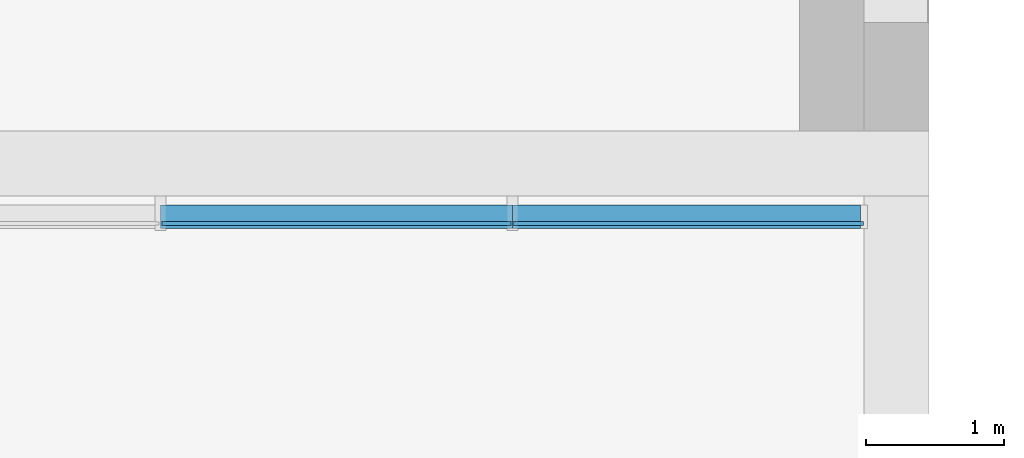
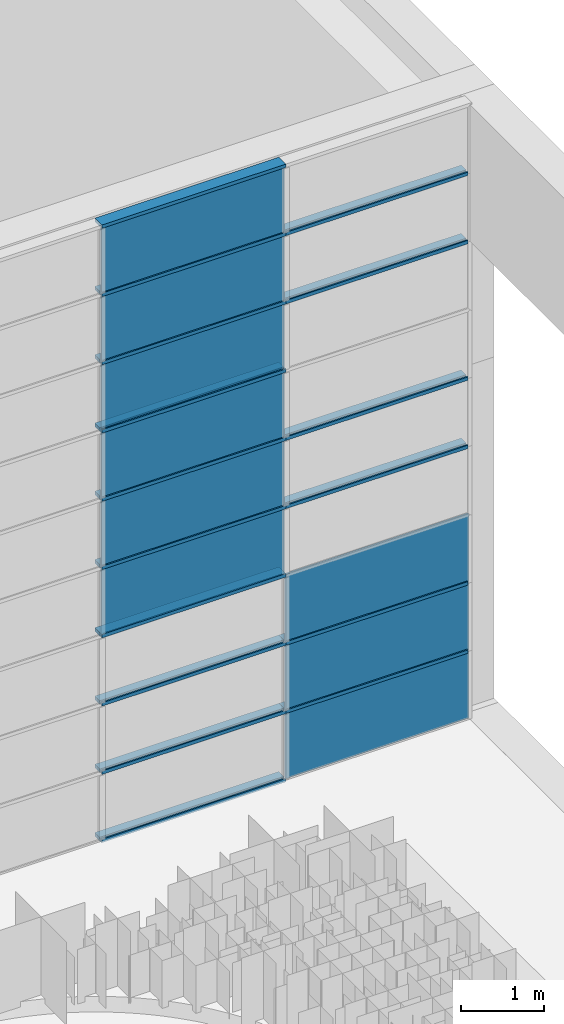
# One storey, part 58 of 105: 27 building element parts, 3 elements without a shape of their own.
"""IFC4 building model written with IfcOpenShell, lengths in millimetres."""

import ifcopenshell
import ifcopenshell.guid

model = None  # the IFC model being written
_history = None  # IfcOwnerHistory: only IFC2X3 demands one
_inside = {}  # id of a spatial element -> (the spatial element, [elements in it])
_under = {}  # id of a project, library or spatial element -> (it, [spatial elements below it])
_declared = {}  # id of a project -> (the project, [libraries it declares])
_typed = {}  # id of a type object -> (the type object, [elements of that type])
_made_of = {}  # id of a material, layer set ... -> (it, [elements and type objects made of it])


def new_model(schema):
    """Start an empty IFC model of exactly this schema.

    Asked for "IFC4X3", IfcOpenShell would pick the latest addendum, in which some entities
    have other attributes; the version numbers below select the first issue.
    IFC2X3 requires an IfcOwnerHistory on every rooted entity: one is made here for all.
    """
    global model, _history
    if schema == "IFC4X3":
        model = ifcopenshell.file(schema_version=(4, 3, 0, 0))
    else:
        model = ifcopenshell.file(schema=schema)
    _inside.clear()
    _under.clear()
    _declared.clear()
    _typed.clear()
    _made_of.clear()
    _history = None
    if model.schema == "IFC2X3":
        org = make("IfcOrganization", Name="unknown")
        user = make(
            "IfcPersonAndOrganization",
            ThePerson=make("IfcPerson", FamilyName="unknown"),
            TheOrganization=org,
        )
        app = make(
            "IfcApplication",
            ApplicationDeveloper=org,
            Version="unknown",
            ApplicationFullName="unknown",
            ApplicationIdentifier="unknown",
        )
        _history = make(
            "IfcOwnerHistory",
            OwningUser=user,
            OwningApplication=app,
            ChangeAction="ADDED",
            CreationDate=0,
        )
    return model


def make(cls, **values):
    """One entity of the class cls with the attributes given. An attribute that is None is left unset."""
    return model.create_entity(
        cls, **{name: value for name, value in values.items() if value is not None}
    )


def entity(cls, *values):
    """Any entity or typed value of the class cls, its attributes in the order of the schema. None: left unset."""
    e = model.create_entity(cls)
    for i, value in enumerate(values):
        if value is not None:
            e[i] = value
    return e


def rooted(cls, **values):
    """An entity with a GlobalId (a new one), such as an element, a storey or a relation."""
    return make(cls, GlobalId=ifcopenshell.guid.new(), OwnerHistory=_history, **values)


def si_unit(unit_type, name, prefix=None):
    """IfcSIUnit, for example si_unit("LENGTHUNIT", "METRE", prefix="MILLI")."""
    return make("IfcSIUnit", UnitType=unit_type, Prefix=prefix, Name=name)


def converted_unit(unit_type, name, factor, base, dimensions=None, offset=None):
    """IfcConversionBasedUnit, such as the inch: factor (a typed value) times the base unit."""
    return make(
        "IfcConversionBasedUnit"
        if offset is None
        else "IfcConversionBasedUnitWithOffset",
        ConversionOffset=offset,
        Dimensions=None
        if dimensions is None
        else entity("IfcDimensionalExponents", *dimensions),
        UnitType=unit_type,
        Name=name,
        ConversionFactor=make(
            "IfcMeasureWithUnit", ValueComponent=factor, UnitComponent=base
        ),
    )


def derived_unit(unit_type, elements):
    """IfcDerivedUnit: a product of units, each with its exponent."""
    return make(
        "IfcDerivedUnit",
        Elements=[
            make("IfcDerivedUnitElement", Unit=unit, Exponent=power)
            for unit, power in elements
        ],
        UnitType=unit_type,
    )


def assignment(units):
    """IfcUnitAssignment: the units of a project."""
    return None if units is None else make("IfcUnitAssignment", Units=units)


def point(xyz):
    """IfcCartesianPoint."""
    return None if xyz is None else make("IfcCartesianPoint", Coordinates=xyz)


def direction(xyz):
    """IfcDirection."""
    return None if xyz is None else make("IfcDirection", DirectionRatios=xyz)


def frame(location, z_axis=None, x_axis=None):
    """IfcAxis2Placement3D, a coordinate frame: its origin and axes. An axis left out is left unset."""
    return make(
        "IfcAxis2Placement3D",
        Location=point(location),
        Axis=direction(z_axis),
        RefDirection=direction(x_axis),
    )


def origin_with_axes():
    """The frame at (0, 0, 0) with the z axis (0, 0, 1) and the x axis (1, 0, 0) written out."""
    return frame((0.0, 0.0, 0.0), z_axis=(0.0, 0.0, 1.0), x_axis=(1.0, 0.0, 0.0))


def place(relative_to, where):
    """IfcLocalPlacement: puts the frame where relative to a parent placement (None: the world)."""
    return make(
        "IfcLocalPlacement", PlacementRelTo=relative_to, RelativePlacement=where
    )


def context(
    kind, dimensions, precision=None, world=None, true_north=None, identifier=None
):
    """IfcGeometricRepresentationContext, for example the 3D "Model" context."""
    return make(
        "IfcGeometricRepresentationContext",
        ContextIdentifier=identifier,
        ContextType=kind,
        CoordinateSpaceDimension=dimensions,
        Precision=precision,
        WorldCoordinateSystem=world,
        TrueNorth=true_north,
    )


def subcontext(parent, identifier, kind, view, scale=None):
    """IfcGeometricRepresentationSubContext, for example "Body" below "Model"."""
    return make(
        "IfcGeometricRepresentationSubContext",
        ContextIdentifier=identifier,
        ContextType=kind,
        ParentContext=parent,
        TargetScale=scale,
        TargetView=view,
    )


def project(units=None, contexts=None):
    """IfcProject with its units and contexts."""
    return rooted(
        "IfcProject",
        Name="project",
        RepresentationContexts=contexts,
        UnitsInContext=assignment(units),
    )


def spatial(cls, under=None, at=None, **own):
    """A site, building, storey or space (cls), placed at a placement, below another one or the project."""
    s = rooted(cls, ObjectPlacement=at, **own)
    if under is not None:
        _under.setdefault(under.id(), (under, []))[1].append(s)
    return s


def point_list(points):
    """IfcCartesianPointList2D or 3D."""
    cls = (
        "IfcCartesianPointList2D" if len(points[0]) == 2 else "IfcCartesianPointList3D"
    )
    return make(cls, CoordList=points)


def triangles(points, corners, closed=None, point_numbers=None):
    """IfcTriangulatedFaceSet: each triangle names its three corners, points numbered from 1."""
    return make(
        "IfcTriangulatedFaceSet",
        Coordinates=point_list(points),
        Closed=closed,
        CoordIndex=corners,
        PnIndex=point_numbers,
    )


def shape(context_of_items, identifier, shape_type, items):
    """IfcShapeRepresentation: the items that make up one representation, for example the "Body"."""
    return make(
        "IfcShapeRepresentation",
        ContextOfItems=context_of_items,
        RepresentationIdentifier=identifier,
        RepresentationType=shape_type,
        Items=items,
    )


def material(Name=None, Category=None):
    """IfcMaterial."""
    return make("IfcMaterial", Name=Name, Category=Category)


def made_of(thing, what):
    """Note that an element or type object is made of a material, layer set ...; save() writes the relation."""
    if what is not None:
        _made_of.setdefault(what.id(), (what, []))[1].append(thing)
    return thing


def element(
    cls,
    number,
    at=None,
    inside=None,
    cuts=None,
    type_object=None,
    material=None,
    context=None,
    identifier="Body",
    shape_type=None,
    held_by="IfcProductDefinitionShape",
    body=None,
    shapes=None,
    **own,
):
    """One element of the class cls, such as IfcWall. Its Tag is "e" and its number.

    at: its placement. inside: the storey or other place that contains it. cuts: it is an
    opening in that element (IfcRelVoidsElement). A single representation is given by context,
    identifier, shape_type and body (its items); several are given by shapes. held_by: the class
    of the entity that holds the representations. save() writes the other relations.
    """
    e = rooted(cls, Tag="e%d" % number, ObjectPlacement=at, **own)
    if body is not None:
        shapes = [shape(context, identifier, shape_type, body)]
    if shapes is not None:
        e.Representation = make(held_by, Representations=shapes)
    if inside is not None:
        _inside.setdefault(inside.id(), (inside, []))[1].append(e)
    if cuts is not None:
        rooted(
            "IfcRelVoidsElement", RelatingBuildingElement=cuts, RelatedOpeningElement=e
        )
    if type_object is not None:
        _typed.setdefault(type_object.id(), (type_object, []))[1].append(e)
    return made_of(e, material)


def aggregate(whole, parts):
    """IfcRelAggregates: a whole, such as a stair, and the parts it consists of."""
    return rooted("IfcRelAggregates", RelatingObject=whole, RelatedObjects=parts)


def save(model, path):
    """Write the relations noted so far, then the file.

    IfcRelAggregates (storeys below a building ...), IfcRelContainedInSpatialStructure (elements
    in a storey), IfcRelDefinesByType, IfcRelAssociatesMaterial and IfcRelDeclares: one each for
    every whole, place, type object, material and project.
    """
    for whole, parts in _under.values():
        aggregate(whole, parts)
    for where, things in _inside.values():
        rooted(
            "IfcRelContainedInSpatialStructure",
            RelatedElements=things,
            RelatingStructure=where,
        )
    for kind, things in _typed.values():
        rooted("IfcRelDefinesByType", RelatedObjects=things, RelatingType=kind)
    for what, things in _made_of.values():
        rooted("IfcRelAssociatesMaterial", RelatedObjects=things, RelatingMaterial=what)
    for by, libraries in _declared.values():
        rooted("IfcRelDeclares", RelatingContext=by, RelatedDefinitions=libraries)
    model.write(path)


model = new_model("IFC4")

# Units and contexts
model_context = context("Model", 3, precision=1e-05, world=origin_with_axes(), true_north=direction((0.0, 1.0)))
body_context = subcontext(model_context, "Body", "Model", "MODEL_VIEW")
ifc_project = project(units=[si_unit("LENGTHUNIT", "METRE", prefix="MILLI"), si_unit("AREAUNIT", "SQUARE_METRE"), si_unit("VOLUMEUNIT", "CUBIC_METRE"), converted_unit("PLANEANGLEUNIT", "DEGREE", entity("IfcLengthMeasure", 0.017453), si_unit("PLANEANGLEUNIT", "RADIAN"), dimensions=[0, 0, 0, 0, 0, 0, 0]), si_unit("SOLIDANGLEUNIT", "STERADIAN"), si_unit("MASSUNIT", "GRAM"), si_unit("TIMEUNIT", "SECOND"), si_unit("THERMODYNAMICTEMPERATUREUNIT", "DEGREE_CELSIUS"), si_unit("LUMINOUSINTENSITYUNIT", "LUMEN"), si_unit("POWERUNIT", "WATT"), derived_unit("THERMALTRANSMITTANCEUNIT", [(si_unit("POWERUNIT", "WATT"), 1), (si_unit("THERMODYNAMICTEMPERATUREUNIT", "KELVIN"), -1), (si_unit("AREAUNIT", "SQUARE_METRE"), -1)])], contexts=[model_context])

# Site, building, storey
site_placement = place(None, origin_with_axes())
site = spatial("IfcSite", under=ifc_project, at=site_placement, Name="Default Site", CompositionType="ELEMENT")
building_placement = place(site_placement, origin_with_axes())
building = spatial("IfcBuilding", under=site, at=building_placement, Name="Default Building", CompositionType="ELEMENT")
storey_placement = place(building_placement, origin_with_axes())
storey = spatial("IfcBuildingStorey", under=building, at=storey_placement, Name="OG - Story", CompositionType="ELEMENT", Elevation=0.0)

# Curtain wall, building element parts
curtain_wall_1_placement = place(storey_placement, origin_with_axes())
curtain_wall_1 = element("IfcCurtainWall", 1, at=curtain_wall_1_placement, inside=storey, Name="Fassade-005", PredefinedType="NOTDEFINED")
ifc_material_1 = material(Name="Normalglas")
building_element_part_1_placement = place(curtain_wall_1_placement, frame((52496.845873, -27789.262838, 3000.0), z_axis=(0.0, 0.0, 1.0), x_axis=(1.0, 0.0, 0.0)))
building_element_part_1 = element("IfcBuildingElementPart", 2, at=building_element_part_1_placement, material=ifc_material_1, Name="Normalglas", PredefinedType="NOTDEFINED", context=body_context, shape_type="Tessellation", body=[
    triangles([(26779.545, 15.0, 995.0), (24243.636, 15.0, 995.0), (24243.636, -14.999, 995.0), (26779.545, -14.999, 995.0), (26779.545, 15.0, 5.0), (24243.636, 15.0, 5.0), (24243.636, -14.999, 5.0), (26779.545, -14.999, 5.0)], [[1, 2, 3], [1, 3, 4], [1, 5, 6], [1, 6, 2], [2, 6, 7], [2, 7, 3], [4, 3, 7], [4, 7, 8], [5, 1, 4], [5, 4, 8], [6, 5, 8], [6, 8, 7]], closed=False),
])
building_element_part_2_placement = place(curtain_wall_1_placement, frame((52496.845873, -27789.262838, 3000.0), z_axis=(0.0, 0.0, 1.0), x_axis=(1.0, 0.0, 0.0)))
building_element_part_2 = element("IfcBuildingElementPart", 3, at=building_element_part_2_placement, material=ifc_material_1, Name="Normalglas", PredefinedType="NOTDEFINED", context=body_context, shape_type="Tessellation", body=[
    triangles([(26779.545, 15.0, 1995.0), (24243.636, 15.0, 1995.0), (24243.636, -14.999, 1995.0), (26779.545, -14.999, 1995.0), (26779.545, 15.0, 1005.0), (24243.636, 15.0, 1005.0), (24243.636, -14.999, 1005.0), (26779.545, -14.999, 1005.0)], [[1, 2, 3], [1, 3, 4], [1, 5, 6], [1, 6, 2], [2, 6, 7], [2, 7, 3], [4, 3, 7], [4, 7, 8], [5, 1, 4], [5, 4, 8], [6, 5, 8], [6, 8, 7]], closed=False),
])
building_element_part_3_placement = place(curtain_wall_1_placement, frame((52496.845873, -27789.262838, 3000.0), z_axis=(0.0, 0.0, 1.0), x_axis=(1.0, 0.0, 0.0)))
building_element_part_3 = element("IfcBuildingElementPart", 4, at=building_element_part_3_placement, material=ifc_material_1, Name="Normalglas", PredefinedType="NOTDEFINED", context=body_context, shape_type="Tessellation", body=[
    triangles([(26779.545, 15.0, 2995.0), (24243.636, 15.0, 2995.0), (24243.636, -14.999, 2995.0), (26779.545, -14.999, 2995.0), (26779.545, 15.0, 2005.0), (24243.636, 15.0, 2005.0), (24243.636, -14.999, 2005.0), (26779.545, -14.999, 2005.0)], [[1, 2, 3], [1, 3, 4], [1, 5, 6], [1, 6, 2], [2, 6, 7], [2, 7, 3], [4, 3, 7], [4, 7, 8], [5, 1, 4], [5, 4, 8], [6, 5, 8], [6, 8, 7]], closed=False),
])
ifc_material_2 = material(Name="Blech")
building_element_part_4_placement = place(curtain_wall_1_placement, frame((52496.845873, -27789.262838, 3000.0), z_axis=(0.0, 0.0, 1.0), x_axis=(1.0, 0.0, 0.0)))
building_element_part_4 = element("IfcBuildingElementPart", 5, at=building_element_part_4_placement, material=ifc_material_2, Name="Blech", PredefinedType="NOTDEFINED", context=body_context, shape_type="Tessellation", body=[
    triangles([(24233.636, 15.0, 25.0), (24233.636, 133.0, 25.0), (24233.636, 15.0, 5.0), (24233.636, 133.0, -24.999), (24233.636, -14.999, 5.0), (24233.636, -34.999, -24.999), (24233.636, -14.999, 25.0), (24233.636, -34.999, 25.0), (21682.727, 15.0, 5.0), (21682.727, -14.999, 5.0), (21682.727, -14.999, 25.0), (21682.727, -34.999, 25.0), (21682.727, -34.999, -24.999), (21682.727, 133.0, -24.999), (21682.727, 133.0, 25.0), (21682.727, 15.0, 25.0)], [[1, 2, 3], [3, 2, 4], [3, 4, 5], [5, 4, 6], [5, 6, 7], [7, 6, 8], [5, 3, 9], [5, 9, 10], [11, 7, 5], [11, 5, 10], [7, 11, 12], [7, 12, 8], [13, 6, 8], [13, 8, 12], [14, 4, 6], [14, 6, 13], [15, 2, 4], [15, 4, 14], [16, 1, 2], [16, 2, 15], [3, 1, 16], [3, 16, 9], [16, 15, 9], [9, 15, 14], [9, 14, 10], [10, 14, 13], [10, 13, 11], [11, 13, 12]], closed=False),
])
building_element_part_5_placement = place(curtain_wall_1_placement, frame((52496.845873, -27789.262838, 3000.0), z_axis=(0.0, 0.0, 1.0), x_axis=(1.0, 0.0, 0.0)))
building_element_part_5 = element("IfcBuildingElementPart", 6, at=building_element_part_5_placement, material=ifc_material_2, Name="Blech", PredefinedType="NOTDEFINED", context=body_context, shape_type="Tessellation", body=[
    triangles([(26759.545, 133.0, 2025.0), (26759.545, 15.0, 2025.0), (26759.545, 133.0, 1975.0), (26759.545, 15.0, 2005.0), (26759.545, 15.0, 1995.0), (26759.545, -14.999, 2005.0), (26759.545, -14.999, 1995.0), (26759.545, -14.999, 1975.0), (26759.545, -14.999, 2025.0), (26759.545, -34.999, 2025.0), (26759.545, -34.999, 1975.0), (26759.545, 15.0, 1975.0), (24233.636, 15.0, 1995.0), (24233.636, 15.0, 1975.0), (24233.636, 133.0, 1975.0), (24233.636, 133.0, 2025.0), (24233.636, 15.0, 2025.0), (24233.636, 15.0, 2005.0), (24233.636, -14.999, 2005.0), (24233.636, -14.999, 2025.0), (24233.636, -34.999, 2025.0), (24233.636, -34.999, 1975.0), (24233.636, -14.999, 1975.0), (24233.636, -14.999, 1995.0)], [[1, 2, 3], [3, 2, 4], [3, 4, 5], [5, 4, 6], [5, 6, 7], [8, 9, 10], [8, 10, 11], [3, 5, 12], [12, 5, 13], [12, 13, 14], [12, 14, 15], [12, 15, 3], [1, 3, 15], [1, 15, 16], [2, 1, 16], [2, 16, 17], [2, 17, 18], [2, 18, 4], [4, 18, 19], [4, 19, 6], [9, 6, 19], [9, 19, 20], [20, 21, 10], [20, 10, 9], [11, 10, 21], [11, 21, 22], [23, 8, 11], [23, 11, 22], [7, 8, 23], [7, 23, 24], [5, 7, 24], [5, 24, 13], [15, 14, 16], [16, 14, 13], [16, 13, 18], [18, 13, 24], [18, 24, 19], [20, 23, 22], [20, 22, 21], [16, 18, 17]], closed=False),
])
building_element_part_6_placement = place(curtain_wall_1_placement, frame((52496.845873, -27789.262838, 3000.0), z_axis=(0.0, 0.0, 1.0), x_axis=(1.0, 0.0, 0.0)))
building_element_part_6 = element("IfcBuildingElementPart", 7, at=building_element_part_6_placement, material=ifc_material_2, Name="Blech", PredefinedType="NOTDEFINED", context=body_context, shape_type="Tessellation", body=[
    triangles([(24233.636, 133.0, 1025.0), (24233.636, 15.0, 1025.0), (24233.636, 133.0, 975.0), (24233.636, 15.0, 1005.0), (24233.636, 15.0, 995.0), (24233.636, -14.999, 1005.0), (24233.636, -14.999, 995.0), (24233.636, -14.999, 975.0), (24233.636, -14.999, 1025.0), (24233.636, -34.999, 1025.0), (24233.636, -34.999, 975.0), (24233.636, 15.0, 975.0), (21682.727, 15.0, 995.0), (21682.727, 15.0, 975.0), (21682.727, 133.0, 975.0), (21682.727, 133.0, 1025.0), (21682.727, 15.0, 1025.0), (21682.727, 15.0, 1005.0), (21682.727, -14.999, 1005.0), (21682.727, -14.999, 1025.0), (21682.727, -34.999, 1025.0), (21682.727, -34.999, 975.0), (21682.727, -14.999, 975.0), (21682.727, -14.999, 995.0)], [[1, 2, 3], [3, 2, 4], [3, 4, 5], [5, 4, 6], [5, 6, 7], [8, 9, 10], [8, 10, 11], [3, 5, 12], [12, 5, 13], [12, 13, 14], [12, 14, 15], [12, 15, 3], [1, 3, 15], [1, 15, 16], [2, 1, 16], [2, 16, 17], [2, 17, 18], [2, 18, 4], [4, 18, 19], [4, 19, 6], [9, 6, 19], [9, 19, 20], [20, 21, 10], [20, 10, 9], [11, 10, 21], [11, 21, 22], [23, 8, 11], [23, 11, 22], [7, 8, 23], [7, 23, 24], [5, 7, 24], [5, 24, 13], [15, 14, 16], [16, 14, 13], [16, 13, 18], [18, 13, 24], [18, 24, 19], [20, 23, 22], [20, 22, 21], [16, 18, 17]], closed=False),
])
building_element_part_7_placement = place(curtain_wall_1_placement, frame((52496.845873, -27789.262838, 3000.0), z_axis=(0.0, 0.0, 1.0), x_axis=(1.0, 0.0, 0.0)))
building_element_part_7 = element("IfcBuildingElementPart", 8, at=building_element_part_7_placement, material=ifc_material_2, Name="Blech", PredefinedType="NOTDEFINED", context=body_context, shape_type="Tessellation", body=[
    triangles([(26759.545, 133.0, 1025.0), (26759.545, 15.0, 1025.0), (26759.545, 133.0, 975.0), (26759.545, 15.0, 1005.0), (26759.545, 15.0, 995.0), (26759.545, -14.999, 1005.0), (26759.545, -14.999, 995.0), (26759.545, -14.999, 975.0), (26759.545, -14.999, 1025.0), (26759.545, -34.999, 1025.0), (26759.545, -34.999, 975.0), (26759.545, 15.0, 975.0), (24233.636, 15.0, 995.0), (24233.636, 15.0, 975.0), (24233.636, 133.0, 975.0), (24233.636, 133.0, 1025.0), (24233.636, 15.0, 1025.0), (24233.636, 15.0, 1005.0), (24233.636, -14.999, 1005.0), (24233.636, -14.999, 1025.0), (24233.636, -34.999, 1025.0), (24233.636, -34.999, 975.0), (24233.636, -14.999, 975.0), (24233.636, -14.999, 995.0)], [[1, 2, 3], [3, 2, 4], [3, 4, 5], [5, 4, 6], [5, 6, 7], [8, 9, 10], [8, 10, 11], [3, 5, 12], [12, 5, 13], [12, 13, 14], [12, 14, 15], [12, 15, 3], [1, 3, 15], [1, 15, 16], [2, 1, 16], [2, 16, 17], [2, 17, 18], [2, 18, 4], [4, 18, 19], [4, 19, 6], [9, 6, 19], [9, 19, 20], [20, 21, 10], [20, 10, 9], [11, 10, 21], [11, 21, 22], [23, 8, 11], [23, 11, 22], [7, 8, 23], [7, 23, 24], [5, 7, 24], [5, 24, 13], [15, 14, 16], [16, 14, 13], [16, 13, 18], [18, 13, 24], [18, 24, 19], [20, 23, 22], [20, 22, 21], [16, 18, 17]], closed=False),
])
building_element_part_8_placement = place(curtain_wall_1_placement, frame((52496.845873, -27789.262838, 3000.0), z_axis=(0.0, 0.0, 1.0), x_axis=(1.0, 0.0, 0.0)))
building_element_part_8 = element("IfcBuildingElementPart", 9, at=building_element_part_8_placement, material=ifc_material_2, Name="Blech", PredefinedType="NOTDEFINED", context=body_context, shape_type="Tessellation", body=[
    triangles([(24233.636, 133.0, 2025.0), (24233.636, 15.0, 2025.0), (24233.636, 133.0, 1975.0), (24233.636, 15.0, 2005.0), (24233.636, 15.0, 1995.0), (24233.636, -14.999, 2005.0), (24233.636, -14.999, 1995.0), (24233.636, -14.999, 1975.0), (24233.636, -14.999, 2025.0), (24233.636, -34.999, 2025.0), (24233.636, -34.999, 1975.0), (24233.636, 15.0, 1975.0), (21682.727, 15.0, 1995.0), (21682.727, 15.0, 1975.0), (21682.727, 133.0, 1975.0), (21682.727, 133.0, 2025.0), (21682.727, 15.0, 2025.0), (21682.727, 15.0, 2005.0), (21682.727, -14.999, 2005.0), (21682.727, -14.999, 2025.0), (21682.727, -34.999, 2025.0), (21682.727, -34.999, 1975.0), (21682.727, -14.999, 1975.0), (21682.727, -14.999, 1995.0)], [[1, 2, 3], [3, 2, 4], [3, 4, 5], [5, 4, 6], [5, 6, 7], [8, 9, 10], [8, 10, 11], [3, 5, 12], [12, 5, 13], [12, 13, 14], [12, 14, 15], [12, 15, 3], [1, 3, 15], [1, 15, 16], [2, 1, 16], [2, 16, 17], [2, 17, 18], [2, 18, 4], [4, 18, 19], [4, 19, 6], [9, 6, 19], [9, 19, 20], [20, 21, 10], [20, 10, 9], [11, 10, 21], [11, 21, 22], [23, 8, 11], [23, 11, 22], [7, 8, 23], [7, 23, 24], [5, 7, 24], [5, 24, 13], [15, 14, 16], [16, 14, 13], [16, 13, 18], [18, 13, 24], [18, 24, 19], [20, 23, 22], [20, 22, 21], [16, 18, 17]], closed=False),
])
building_element_part_9_placement = place(curtain_wall_1_placement, frame((52496.845873, -27789.262838, 3000.0), z_axis=(0.0, 0.0, 1.0), x_axis=(1.0, 0.0, 0.0)))
building_element_part_9 = element("IfcBuildingElementPart", 10, at=building_element_part_9_placement, material=ifc_material_2, Name="Blech", PredefinedType="NOTDEFINED", context=body_context, shape_type="Tessellation", body=[
    triangles([(24233.636, 15.0, 2975.0), (24233.636, 133.0, 2975.0), (24233.636, 15.0, 2995.0), (24233.636, 133.0, 3025.0), (24233.636, -14.999, 2995.0), (24233.636, -34.999, 3025.0), (24233.636, -14.999, 2975.0), (24233.636, -34.999, 2975.0), (21682.727, 15.0, 2995.0), (21682.727, 15.0, 2975.0), (21682.727, 133.0, 2975.0), (21682.727, 133.0, 3025.0), (21682.727, -34.999, 3025.0), (21682.727, -34.999, 2975.0), (21682.727, -14.999, 2975.0), (21682.727, -14.999, 2995.0)], [[1, 2, 3], [3, 2, 4], [3, 4, 5], [5, 4, 6], [5, 6, 7], [7, 6, 8], [3, 9, 10], [3, 10, 1], [10, 11, 2], [10, 2, 1], [11, 12, 4], [11, 4, 2], [12, 13, 6], [12, 6, 4], [13, 14, 8], [13, 8, 6], [7, 8, 14], [7, 14, 15], [15, 16, 5], [15, 5, 7], [5, 16, 9], [5, 9, 3], [10, 11, 9], [9, 11, 12], [9, 12, 16], [16, 12, 13], [16, 13, 15], [15, 13, 14]], closed=False),
])
aggregate(curtain_wall_1, [building_element_part_1, building_element_part_2, building_element_part_3, building_element_part_4, building_element_part_5, building_element_part_6, building_element_part_7, building_element_part_8, building_element_part_9])

curtain_wall_2_placement = place(storey_placement, origin_with_axes())
curtain_wall_2 = element("IfcCurtainWall", 11, at=curtain_wall_2_placement, inside=storey, Name="Fassade-005", PredefinedType="NOTDEFINED")
building_element_part_10_placement = place(curtain_wall_2_placement, frame((52496.845873, -27789.262838, 6000.0), z_axis=(0.0, 0.0, 1.0), x_axis=(1.0, 0.0, 0.0)))
building_element_part_10 = element("IfcBuildingElementPart", 12, at=building_element_part_10_placement, material=ifc_material_1, Name="Normalglas", PredefinedType="NOTDEFINED", context=body_context, shape_type="Tessellation", body=[
    triangles([(24223.636, 15.0, 995.0), (21692.727, 15.0, 995.0), (21692.727, -14.999, 995.0), (24223.636, -14.999, 995.0), (24223.636, 15.0, 5.0), (21692.727, 15.0, 5.0), (21692.727, -14.999, 5.0), (24223.636, -14.999, 5.0)], [[1, 2, 3], [1, 3, 4], [1, 5, 6], [1, 6, 2], [2, 6, 7], [2, 7, 3], [4, 3, 7], [4, 7, 8], [5, 1, 4], [5, 4, 8], [6, 5, 8], [6, 8, 7]], closed=False),
])
building_element_part_11_placement = place(curtain_wall_2_placement, frame((52496.845873, -27789.262838, 6000.0), z_axis=(0.0, 0.0, 1.0), x_axis=(1.0, 0.0, 0.0)))
building_element_part_11 = element("IfcBuildingElementPart", 13, at=building_element_part_11_placement, material=ifc_material_1, Name="Normalglas", PredefinedType="NOTDEFINED", context=body_context, shape_type="Tessellation", body=[
    triangles([(24223.636, 15.0, 2995.0), (21692.727, 15.0, 2995.0), (21692.727, -14.999, 2995.0), (24223.636, -14.999, 2995.0), (24223.636, 15.0, 2005.0), (21692.727, 15.0, 2005.0), (21692.727, -14.999, 2005.0), (24223.636, -14.999, 2005.0)], [[1, 2, 3], [1, 3, 4], [1, 5, 6], [1, 6, 2], [2, 6, 7], [2, 7, 3], [4, 3, 7], [4, 7, 8], [5, 1, 4], [5, 4, 8], [6, 5, 8], [6, 8, 7]], closed=False),
])
building_element_part_12_placement = place(curtain_wall_2_placement, frame((52496.845873, -27789.262838, 6000.0), z_axis=(0.0, 0.0, 1.0), x_axis=(1.0, 0.0, 0.0)))
building_element_part_12 = element("IfcBuildingElementPart", 14, at=building_element_part_12_placement, material=ifc_material_1, Name="Normalglas", PredefinedType="NOTDEFINED", context=body_context, shape_type="Tessellation", body=[
    triangles([(24223.636, 15.0, 1995.0), (21692.727, 15.0, 1995.0), (21692.727, -14.999, 1995.0), (24223.636, -14.999, 1995.0), (24223.636, 15.0, 1005.0), (21692.727, 15.0, 1005.0), (21692.727, -14.999, 1005.0), (24223.636, -14.999, 1005.0)], [[1, 2, 3], [1, 3, 4], [1, 5, 6], [1, 6, 2], [2, 6, 7], [2, 7, 3], [4, 3, 7], [4, 7, 8], [5, 1, 4], [5, 4, 8], [6, 5, 8], [6, 8, 7]], closed=False),
])
building_element_part_13_placement = place(curtain_wall_2_placement, frame((52496.845873, -27789.262838, 6000.0), z_axis=(0.0, 0.0, 1.0), x_axis=(1.0, 0.0, 0.0)))
building_element_part_13 = element("IfcBuildingElementPart", 15, at=building_element_part_13_placement, material=ifc_material_2, Name="Blech", PredefinedType="NOTDEFINED", context=body_context, shape_type="Tessellation", body=[
    triangles([(24233.636, 15.0, 25.0), (24233.636, 133.0, 25.0), (24233.636, 15.0, 5.0), (24233.636, 133.0, -24.999), (24233.636, -14.999, 5.0), (24233.636, -34.999, -24.999), (24233.636, -14.999, 25.0), (24233.636, -34.999, 25.0), (21682.727, 15.0, 5.0), (21682.727, -14.999, 5.0), (21682.727, -14.999, 25.0), (21682.727, -34.999, 25.0), (21682.727, -34.999, -24.999), (21682.727, 133.0, -24.999), (21682.727, 133.0, 25.0), (21682.727, 15.0, 25.0)], [[1, 2, 3], [3, 2, 4], [3, 4, 5], [5, 4, 6], [5, 6, 7], [7, 6, 8], [5, 3, 9], [5, 9, 10], [11, 7, 5], [11, 5, 10], [7, 11, 12], [7, 12, 8], [13, 6, 8], [13, 8, 12], [14, 4, 6], [14, 6, 13], [15, 2, 4], [15, 4, 14], [16, 1, 2], [16, 2, 15], [3, 1, 16], [3, 16, 9], [16, 15, 9], [9, 15, 14], [9, 14, 10], [10, 14, 13], [10, 13, 11], [11, 13, 12]], closed=False),
])
building_element_part_14_placement = place(curtain_wall_2_placement, frame((52496.845873, -27789.262838, 6000.0), z_axis=(0.0, 0.0, 1.0), x_axis=(1.0, 0.0, 0.0)))
building_element_part_14 = element("IfcBuildingElementPart", 16, at=building_element_part_14_placement, material=ifc_material_2, Name="Blech", PredefinedType="NOTDEFINED", context=body_context, shape_type="Tessellation", body=[
    triangles([(26759.545, 133.0, 2025.0), (26759.545, 15.0, 2025.0), (26759.545, 133.0, 1975.0), (26759.545, 15.0, 2005.0), (26759.545, 15.0, 1995.0), (26759.545, -14.999, 2005.0), (26759.545, -14.999, 1995.0), (26759.545, -14.999, 1975.0), (26759.545, -14.999, 2025.0), (26759.545, -34.999, 2025.0), (26759.545, -34.999, 1975.0), (26759.545, 15.0, 1975.0), (24233.636, 15.0, 1995.0), (24233.636, 15.0, 1975.0), (24233.636, 133.0, 1975.0), (24233.636, 133.0, 2025.0), (24233.636, 15.0, 2025.0), (24233.636, 15.0, 2005.0), (24233.636, -14.999, 2005.0), (24233.636, -14.999, 2025.0), (24233.636, -34.999, 2025.0), (24233.636, -34.999, 1975.0), (24233.636, -14.999, 1975.0), (24233.636, -14.999, 1995.0)], [[1, 2, 3], [3, 2, 4], [3, 4, 5], [5, 4, 6], [5, 6, 7], [8, 9, 10], [8, 10, 11], [3, 5, 12], [12, 5, 13], [12, 13, 14], [12, 14, 15], [12, 15, 3], [1, 3, 15], [1, 15, 16], [2, 1, 16], [2, 16, 17], [2, 17, 18], [2, 18, 4], [4, 18, 19], [4, 19, 6], [9, 6, 19], [9, 19, 20], [20, 21, 10], [20, 10, 9], [11, 10, 21], [11, 21, 22], [23, 8, 11], [23, 11, 22], [7, 8, 23], [7, 23, 24], [5, 7, 24], [5, 24, 13], [15, 14, 16], [16, 14, 13], [16, 13, 18], [18, 13, 24], [18, 24, 19], [20, 23, 22], [20, 22, 21], [16, 18, 17]], closed=False),
])
building_element_part_15_placement = place(curtain_wall_2_placement, frame((52496.845873, -27789.262838, 6000.0), z_axis=(0.0, 0.0, 1.0), x_axis=(1.0, 0.0, 0.0)))
building_element_part_15 = element("IfcBuildingElementPart", 17, at=building_element_part_15_placement, material=ifc_material_2, Name="Blech", PredefinedType="NOTDEFINED", context=body_context, shape_type="Tessellation", body=[
    triangles([(24233.636, 133.0, 1025.0), (24233.636, 15.0, 1025.0), (24233.636, 133.0, 975.0), (24233.636, 15.0, 1005.0), (24233.636, 15.0, 995.0), (24233.636, -14.999, 1005.0), (24233.636, -14.999, 995.0), (24233.636, -14.999, 975.0), (24233.636, -14.999, 1025.0), (24233.636, -34.999, 1025.0), (24233.636, -34.999, 975.0), (24233.636, 15.0, 975.0), (21682.727, 15.0, 995.0), (21682.727, 15.0, 975.0), (21682.727, 133.0, 975.0), (21682.727, 133.0, 1025.0), (21682.727, 15.0, 1025.0), (21682.727, 15.0, 1005.0), (21682.727, -14.999, 1005.0), (21682.727, -14.999, 1025.0), (21682.727, -34.999, 1025.0), (21682.727, -34.999, 975.0), (21682.727, -14.999, 975.0), (21682.727, -14.999, 995.0)], [[1, 2, 3], [3, 2, 4], [3, 4, 5], [5, 4, 6], [5, 6, 7], [8, 9, 10], [8, 10, 11], [3, 5, 12], [12, 5, 13], [12, 13, 14], [12, 14, 15], [12, 15, 3], [1, 3, 15], [1, 15, 16], [2, 1, 16], [2, 16, 17], [2, 17, 18], [2, 18, 4], [4, 18, 19], [4, 19, 6], [9, 6, 19], [9, 19, 20], [20, 21, 10], [20, 10, 9], [11, 10, 21], [11, 21, 22], [23, 8, 11], [23, 11, 22], [7, 8, 23], [7, 23, 24], [5, 7, 24], [5, 24, 13], [15, 14, 16], [16, 14, 13], [16, 13, 18], [18, 13, 24], [18, 24, 19], [20, 23, 22], [20, 22, 21], [16, 18, 17]], closed=False),
])
building_element_part_16_placement = place(curtain_wall_2_placement, frame((52496.845873, -27789.262838, 6000.0), z_axis=(0.0, 0.0, 1.0), x_axis=(1.0, 0.0, 0.0)))
building_element_part_16 = element("IfcBuildingElementPart", 18, at=building_element_part_16_placement, material=ifc_material_2, Name="Blech", PredefinedType="NOTDEFINED", context=body_context, shape_type="Tessellation", body=[
    triangles([(26759.545, 133.0, 1025.0), (26759.545, 15.0, 1025.0), (26759.545, 133.0, 975.0), (26759.545, 15.0, 1005.0), (26759.545, 15.0, 995.0), (26759.545, -14.999, 1005.0), (26759.545, -14.999, 995.0), (26759.545, -14.999, 975.0), (26759.545, -14.999, 1025.0), (26759.545, -34.999, 1025.0), (26759.545, -34.999, 975.0), (26759.545, 15.0, 975.0), (24233.636, 15.0, 995.0), (24233.636, 15.0, 975.0), (24233.636, 133.0, 975.0), (24233.636, 133.0, 1025.0), (24233.636, 15.0, 1025.0), (24233.636, 15.0, 1005.0), (24233.636, -14.999, 1005.0), (24233.636, -14.999, 1025.0), (24233.636, -34.999, 1025.0), (24233.636, -34.999, 975.0), (24233.636, -14.999, 975.0), (24233.636, -14.999, 995.0)], [[1, 2, 3], [3, 2, 4], [3, 4, 5], [5, 4, 6], [5, 6, 7], [8, 9, 10], [8, 10, 11], [3, 5, 12], [12, 5, 13], [12, 13, 14], [12, 14, 15], [12, 15, 3], [1, 3, 15], [1, 15, 16], [2, 1, 16], [2, 16, 17], [2, 17, 18], [2, 18, 4], [4, 18, 19], [4, 19, 6], [9, 6, 19], [9, 19, 20], [20, 21, 10], [20, 10, 9], [11, 10, 21], [11, 21, 22], [23, 8, 11], [23, 11, 22], [7, 8, 23], [7, 23, 24], [5, 7, 24], [5, 24, 13], [15, 14, 16], [16, 14, 13], [16, 13, 18], [18, 13, 24], [18, 24, 19], [20, 23, 22], [20, 22, 21], [16, 18, 17]], closed=False),
])
building_element_part_17_placement = place(curtain_wall_2_placement, frame((52496.845873, -27789.262838, 6000.0), z_axis=(0.0, 0.0, 1.0), x_axis=(1.0, 0.0, 0.0)))
building_element_part_17 = element("IfcBuildingElementPart", 19, at=building_element_part_17_placement, material=ifc_material_2, Name="Blech", PredefinedType="NOTDEFINED", context=body_context, shape_type="Tessellation", body=[
    triangles([(24233.636, 133.0, 2025.0), (24233.636, 15.0, 2025.0), (24233.636, 133.0, 1975.0), (24233.636, 15.0, 2005.0), (24233.636, 15.0, 1995.0), (24233.636, -14.999, 2005.0), (24233.636, -14.999, 1995.0), (24233.636, -14.999, 1975.0), (24233.636, -14.999, 2025.0), (24233.636, -34.999, 2025.0), (24233.636, -34.999, 1975.0), (24233.636, 15.0, 1975.0), (21682.727, 15.0, 1995.0), (21682.727, 15.0, 1975.0), (21682.727, 133.0, 1975.0), (21682.727, 133.0, 2025.0), (21682.727, 15.0, 2025.0), (21682.727, 15.0, 2005.0), (21682.727, -14.999, 2005.0), (21682.727, -14.999, 2025.0), (21682.727, -34.999, 2025.0), (21682.727, -34.999, 1975.0), (21682.727, -14.999, 1975.0), (21682.727, -14.999, 1995.0)], [[1, 2, 3], [3, 2, 4], [3, 4, 5], [5, 4, 6], [5, 6, 7], [8, 9, 10], [8, 10, 11], [3, 5, 12], [12, 5, 13], [12, 13, 14], [12, 14, 15], [12, 15, 3], [1, 3, 15], [1, 15, 16], [2, 1, 16], [2, 16, 17], [2, 17, 18], [2, 18, 4], [4, 18, 19], [4, 19, 6], [9, 6, 19], [9, 19, 20], [20, 21, 10], [20, 10, 9], [11, 10, 21], [11, 21, 22], [23, 8, 11], [23, 11, 22], [7, 8, 23], [7, 23, 24], [5, 7, 24], [5, 24, 13], [15, 14, 16], [16, 14, 13], [16, 13, 18], [18, 13, 24], [18, 24, 19], [20, 23, 22], [20, 22, 21], [16, 18, 17]], closed=False),
])
building_element_part_18_placement = place(curtain_wall_2_placement, frame((52496.845873, -27789.262838, 6000.0), z_axis=(0.0, 0.0, 1.0), x_axis=(1.0, 0.0, 0.0)))
building_element_part_18 = element("IfcBuildingElementPart", 20, at=building_element_part_18_placement, material=ifc_material_2, Name="Blech", PredefinedType="NOTDEFINED", context=body_context, shape_type="Tessellation", body=[
    triangles([(24233.636, 15.0, 2975.0), (24233.636, 133.0, 2975.0), (24233.636, 15.0, 2995.0), (24233.636, 133.0, 3025.0), (24233.636, -14.999, 2995.0), (24233.636, -34.999, 3025.0), (24233.636, -14.999, 2975.0), (24233.636, -34.999, 2975.0), (21682.727, 15.0, 2995.0), (21682.727, 15.0, 2975.0), (21682.727, 133.0, 2975.0), (21682.727, 133.0, 3025.0), (21682.727, -34.999, 3025.0), (21682.727, -34.999, 2975.0), (21682.727, -14.999, 2975.0), (21682.727, -14.999, 2995.0)], [[1, 2, 3], [3, 2, 4], [3, 4, 5], [5, 4, 6], [5, 6, 7], [7, 6, 8], [3, 9, 10], [3, 10, 1], [10, 11, 2], [10, 2, 1], [11, 12, 4], [11, 4, 2], [12, 13, 6], [12, 6, 4], [13, 14, 8], [13, 8, 6], [7, 8, 14], [7, 14, 15], [15, 16, 5], [15, 5, 7], [5, 16, 9], [5, 9, 3], [10, 11, 9], [9, 11, 12], [9, 12, 16], [16, 12, 13], [16, 13, 15], [15, 13, 14]], closed=False),
])
aggregate(curtain_wall_2, [building_element_part_10, building_element_part_11, building_element_part_12, building_element_part_13, building_element_part_14, building_element_part_15, building_element_part_16, building_element_part_17, building_element_part_18])

curtain_wall_3_placement = place(storey_placement, origin_with_axes())
curtain_wall_3 = element("IfcCurtainWall", 21, at=curtain_wall_3_placement, inside=storey, Name="Fassade-005", PredefinedType="NOTDEFINED")
building_element_part_19_placement = place(curtain_wall_3_placement, frame((52496.845873, -27789.262838, 9000.0), z_axis=(0.0, 0.0, 1.0), x_axis=(1.0, 0.0, 0.0)))
building_element_part_19 = element("IfcBuildingElementPart", 22, at=building_element_part_19_placement, material=ifc_material_1, Name="Normalglas", PredefinedType="NOTDEFINED", context=body_context, shape_type="Tessellation", body=[
    triangles([(24223.636, 15.0, 995.0), (21692.727, 15.0, 995.0), (21692.727, -14.999, 995.0), (24223.636, -14.999, 995.0), (24223.636, 15.0, 5.0), (21692.727, 15.0, 5.0), (21692.727, -14.999, 5.0), (24223.636, -14.999, 5.0)], [[1, 2, 3], [1, 3, 4], [1, 5, 6], [1, 6, 2], [2, 6, 7], [2, 7, 3], [4, 3, 7], [4, 7, 8], [5, 1, 4], [5, 4, 8], [6, 5, 8], [6, 8, 7]], closed=False),
])
building_element_part_20_placement = place(curtain_wall_3_placement, frame((52496.845873, -27789.262838, 9000.0), z_axis=(0.0, 0.0, 1.0), x_axis=(1.0, 0.0, 0.0)))
building_element_part_20 = element("IfcBuildingElementPart", 23, at=building_element_part_20_placement, material=ifc_material_1, Name="Normalglas", PredefinedType="NOTDEFINED", context=body_context, shape_type="Tessellation", body=[
    triangles([(24223.636, 15.0, 2995.0), (21692.727, 15.0, 2995.0), (21692.727, -14.999, 2995.0), (24223.636, -14.999, 2995.0), (24223.636, 15.0, 2005.0), (21692.727, 15.0, 2005.0), (21692.727, -14.999, 2005.0), (24223.636, -14.999, 2005.0)], [[1, 2, 3], [1, 3, 4], [1, 5, 6], [1, 6, 2], [2, 6, 7], [2, 7, 3], [4, 3, 7], [4, 7, 8], [5, 1, 4], [5, 4, 8], [6, 5, 8], [6, 8, 7]], closed=False),
])
building_element_part_21_placement = place(curtain_wall_3_placement, frame((52496.845873, -27789.262838, 9000.0), z_axis=(0.0, 0.0, 1.0), x_axis=(1.0, 0.0, 0.0)))
building_element_part_21 = element("IfcBuildingElementPart", 24, at=building_element_part_21_placement, material=ifc_material_1, Name="Normalglas", PredefinedType="NOTDEFINED", context=body_context, shape_type="Tessellation", body=[
    triangles([(24223.636, 15.0, 1995.0), (21692.727, 15.0, 1995.0), (21692.727, -14.999, 1995.0), (24223.636, -14.999, 1995.0), (24223.636, 15.0, 1005.0), (21692.727, 15.0, 1005.0), (21692.727, -14.999, 1005.0), (24223.636, -14.999, 1005.0)], [[1, 2, 3], [1, 3, 4], [1, 5, 6], [1, 6, 2], [2, 6, 7], [2, 7, 3], [4, 3, 7], [4, 7, 8], [5, 1, 4], [5, 4, 8], [6, 5, 8], [6, 8, 7]], closed=False),
])
building_element_part_22_placement = place(curtain_wall_3_placement, frame((52496.845873, -27789.262838, 9000.0), z_axis=(0.0, 0.0, 1.0), x_axis=(1.0, 0.0, 0.0)))
building_element_part_22 = element("IfcBuildingElementPart", 25, at=building_element_part_22_placement, material=ifc_material_2, Name="Blech", PredefinedType="NOTDEFINED", context=body_context, shape_type="Tessellation", body=[
    triangles([(24233.636, 15.0, 25.0), (24233.636, 133.0, 25.0), (24233.636, 15.0, 5.0), (24233.636, 133.0, -24.999), (24233.636, -14.999, 5.0), (24233.636, -34.999, -24.999), (24233.636, -14.999, 25.0), (24233.636, -34.999, 25.0), (21682.727, 15.0, 5.0), (21682.727, -14.999, 5.0), (21682.727, -14.999, 25.0), (21682.727, -34.999, 25.0), (21682.727, -34.999, -24.999), (21682.727, 133.0, -24.999), (21682.727, 133.0, 25.0), (21682.727, 15.0, 25.0)], [[1, 2, 3], [3, 2, 4], [3, 4, 5], [5, 4, 6], [5, 6, 7], [7, 6, 8], [5, 3, 9], [5, 9, 10], [11, 7, 5], [11, 5, 10], [7, 11, 12], [7, 12, 8], [13, 6, 8], [13, 8, 12], [14, 4, 6], [14, 6, 13], [15, 2, 4], [15, 4, 14], [16, 1, 2], [16, 2, 15], [3, 1, 16], [3, 16, 9], [16, 15, 9], [9, 15, 14], [9, 14, 10], [10, 14, 13], [10, 13, 11], [11, 13, 12]], closed=False),
])
building_element_part_23_placement = place(curtain_wall_3_placement, frame((52496.845873, -27789.262838, 9000.0), z_axis=(0.0, 0.0, 1.0), x_axis=(1.0, 0.0, 0.0)))
building_element_part_23 = element("IfcBuildingElementPart", 26, at=building_element_part_23_placement, material=ifc_material_2, Name="Blech", PredefinedType="NOTDEFINED", context=body_context, shape_type="Tessellation", body=[
    triangles([(26759.545, 133.0, 2025.0), (26759.545, 15.0, 2025.0), (26759.545, 133.0, 1975.0), (26759.545, 15.0, 2005.0), (26759.545, 15.0, 1995.0), (26759.545, -14.999, 2005.0), (26759.545, -14.999, 1995.0), (26759.545, -14.999, 1975.0), (26759.545, -14.999, 2025.0), (26759.545, -34.999, 2025.0), (26759.545, -34.999, 1975.0), (26759.545, 15.0, 1975.0), (24233.636, 15.0, 1995.0), (24233.636, 15.0, 1975.0), (24233.636, 133.0, 1975.0), (24233.636, 133.0, 2025.0), (24233.636, 15.0, 2025.0), (24233.636, 15.0, 2005.0), (24233.636, -14.999, 2005.0), (24233.636, -14.999, 2025.0), (24233.636, -34.999, 2025.0), (24233.636, -34.999, 1975.0), (24233.636, -14.999, 1975.0), (24233.636, -14.999, 1995.0)], [[1, 2, 3], [3, 2, 4], [3, 4, 5], [5, 4, 6], [5, 6, 7], [8, 9, 10], [8, 10, 11], [3, 5, 12], [12, 5, 13], [12, 13, 14], [12, 14, 15], [12, 15, 3], [1, 3, 15], [1, 15, 16], [2, 1, 16], [2, 16, 17], [2, 17, 18], [2, 18, 4], [4, 18, 19], [4, 19, 6], [9, 6, 19], [9, 19, 20], [20, 21, 10], [20, 10, 9], [11, 10, 21], [11, 21, 22], [23, 8, 11], [23, 11, 22], [7, 8, 23], [7, 23, 24], [5, 7, 24], [5, 24, 13], [15, 14, 16], [16, 14, 13], [16, 13, 18], [18, 13, 24], [18, 24, 19], [20, 23, 22], [20, 22, 21], [16, 18, 17]], closed=False),
])
building_element_part_24_placement = place(curtain_wall_3_placement, frame((52496.845873, -27789.262838, 9000.0), z_axis=(0.0, 0.0, 1.0), x_axis=(1.0, 0.0, 0.0)))
building_element_part_24 = element("IfcBuildingElementPart", 27, at=building_element_part_24_placement, material=ifc_material_2, Name="Blech", PredefinedType="NOTDEFINED", context=body_context, shape_type="Tessellation", body=[
    triangles([(24233.636, 133.0, 1025.0), (24233.636, 15.0, 1025.0), (24233.636, 133.0, 975.0), (24233.636, 15.0, 1005.0), (24233.636, 15.0, 995.0), (24233.636, -14.999, 1005.0), (24233.636, -14.999, 995.0), (24233.636, -14.999, 975.0), (24233.636, -14.999, 1025.0), (24233.636, -34.999, 1025.0), (24233.636, -34.999, 975.0), (24233.636, 15.0, 975.0), (21682.727, 15.0, 995.0), (21682.727, 15.0, 975.0), (21682.727, 133.0, 975.0), (21682.727, 133.0, 1025.0), (21682.727, 15.0, 1025.0), (21682.727, 15.0, 1005.0), (21682.727, -14.999, 1005.0), (21682.727, -14.999, 1025.0), (21682.727, -34.999, 1025.0), (21682.727, -34.999, 975.0), (21682.727, -14.999, 975.0), (21682.727, -14.999, 995.0)], [[1, 2, 3], [3, 2, 4], [3, 4, 5], [5, 4, 6], [5, 6, 7], [8, 9, 10], [8, 10, 11], [3, 5, 12], [12, 5, 13], [12, 13, 14], [12, 14, 15], [12, 15, 3], [1, 3, 15], [1, 15, 16], [2, 1, 16], [2, 16, 17], [2, 17, 18], [2, 18, 4], [4, 18, 19], [4, 19, 6], [9, 6, 19], [9, 19, 20], [20, 21, 10], [20, 10, 9], [11, 10, 21], [11, 21, 22], [23, 8, 11], [23, 11, 22], [7, 8, 23], [7, 23, 24], [5, 7, 24], [5, 24, 13], [15, 14, 16], [16, 14, 13], [16, 13, 18], [18, 13, 24], [18, 24, 19], [20, 23, 22], [20, 22, 21], [16, 18, 17]], closed=False),
])
building_element_part_25_placement = place(curtain_wall_3_placement, frame((52496.845873, -27789.262838, 9000.0), z_axis=(0.0, 0.0, 1.0), x_axis=(1.0, 0.0, 0.0)))
building_element_part_25 = element("IfcBuildingElementPart", 28, at=building_element_part_25_placement, material=ifc_material_2, Name="Blech", PredefinedType="NOTDEFINED", context=body_context, shape_type="Tessellation", body=[
    triangles([(26759.545, 133.0, 1025.0), (26759.545, 15.0, 1025.0), (26759.545, 133.0, 975.0), (26759.545, 15.0, 1005.0), (26759.545, 15.0, 995.0), (26759.545, -14.999, 1005.0), (26759.545, -14.999, 995.0), (26759.545, -14.999, 975.0), (26759.545, -14.999, 1025.0), (26759.545, -34.999, 1025.0), (26759.545, -34.999, 975.0), (26759.545, 15.0, 975.0), (24233.636, 15.0, 995.0), (24233.636, 15.0, 975.0), (24233.636, 133.0, 975.0), (24233.636, 133.0, 1025.0), (24233.636, 15.0, 1025.0), (24233.636, 15.0, 1005.0), (24233.636, -14.999, 1005.0), (24233.636, -14.999, 1025.0), (24233.636, -34.999, 1025.0), (24233.636, -34.999, 975.0), (24233.636, -14.999, 975.0), (24233.636, -14.999, 995.0)], [[1, 2, 3], [3, 2, 4], [3, 4, 5], [5, 4, 6], [5, 6, 7], [8, 9, 10], [8, 10, 11], [3, 5, 12], [12, 5, 13], [12, 13, 14], [12, 14, 15], [12, 15, 3], [1, 3, 15], [1, 15, 16], [2, 1, 16], [2, 16, 17], [2, 17, 18], [2, 18, 4], [4, 18, 19], [4, 19, 6], [9, 6, 19], [9, 19, 20], [20, 21, 10], [20, 10, 9], [11, 10, 21], [11, 21, 22], [23, 8, 11], [23, 11, 22], [7, 8, 23], [7, 23, 24], [5, 7, 24], [5, 24, 13], [15, 14, 16], [16, 14, 13], [16, 13, 18], [18, 13, 24], [18, 24, 19], [20, 23, 22], [20, 22, 21], [16, 18, 17]], closed=False),
])
building_element_part_26_placement = place(curtain_wall_3_placement, frame((52496.845873, -27789.262838, 9000.0), z_axis=(0.0, 0.0, 1.0), x_axis=(1.0, 0.0, 0.0)))
building_element_part_26 = element("IfcBuildingElementPart", 29, at=building_element_part_26_placement, material=ifc_material_2, Name="Blech", PredefinedType="NOTDEFINED", context=body_context, shape_type="Tessellation", body=[
    triangles([(24233.636, 133.0, 2025.0), (24233.636, 15.0, 2025.0), (24233.636, 133.0, 1975.0), (24233.636, 15.0, 2005.0), (24233.636, 15.0, 1995.0), (24233.636, -14.999, 2005.0), (24233.636, -14.999, 1995.0), (24233.636, -14.999, 1975.0), (24233.636, -14.999, 2025.0), (24233.636, -34.999, 2025.0), (24233.636, -34.999, 1975.0), (24233.636, 15.0, 1975.0), (21682.727, 15.0, 1995.0), (21682.727, 15.0, 1975.0), (21682.727, 133.0, 1975.0), (21682.727, 133.0, 2025.0), (21682.727, 15.0, 2025.0), (21682.727, 15.0, 2005.0), (21682.727, -14.999, 2005.0), (21682.727, -14.999, 2025.0), (21682.727, -34.999, 2025.0), (21682.727, -34.999, 1975.0), (21682.727, -14.999, 1975.0), (21682.727, -14.999, 1995.0)], [[1, 2, 3], [3, 2, 4], [3, 4, 5], [5, 4, 6], [5, 6, 7], [8, 9, 10], [8, 10, 11], [3, 5, 12], [12, 5, 13], [12, 13, 14], [12, 14, 15], [12, 15, 3], [1, 3, 15], [1, 15, 16], [2, 1, 16], [2, 16, 17], [2, 17, 18], [2, 18, 4], [4, 18, 19], [4, 19, 6], [9, 6, 19], [9, 19, 20], [20, 21, 10], [20, 10, 9], [11, 10, 21], [11, 21, 22], [23, 8, 11], [23, 11, 22], [7, 8, 23], [7, 23, 24], [5, 7, 24], [5, 24, 13], [15, 14, 16], [16, 14, 13], [16, 13, 18], [18, 13, 24], [18, 24, 19], [20, 23, 22], [20, 22, 21], [16, 18, 17]], closed=False),
])
building_element_part_27_placement = place(curtain_wall_3_placement, frame((52496.845873, -27789.262838, 9000.0), z_axis=(0.0, 0.0, 1.0), x_axis=(1.0, 0.0, 0.0)))
building_element_part_27 = element("IfcBuildingElementPart", 30, at=building_element_part_27_placement, material=ifc_material_2, Name="Blech", PredefinedType="NOTDEFINED", context=body_context, shape_type="Tessellation", body=[
    triangles([(24233.636, 15.0, 2975.0), (24233.636, 133.0, 2975.0), (24233.636, 15.0, 2995.0), (24233.636, 133.0, 3025.0), (24233.636, -14.999, 2995.0), (24233.636, -34.999, 3025.0), (24233.636, -14.999, 2975.0), (24233.636, -34.999, 2975.0), (21682.727, 15.0, 2995.0), (21682.727, 15.0, 2975.0), (21682.727, 133.0, 2975.0), (21682.727, 133.0, 3025.0), (21682.727, -34.999, 3025.0), (21682.727, -34.999, 2975.0), (21682.727, -14.999, 2975.0), (21682.727, -14.999, 2995.0)], [[1, 2, 3], [3, 2, 4], [3, 4, 5], [5, 4, 6], [5, 6, 7], [7, 6, 8], [3, 9, 10], [3, 10, 1], [10, 11, 2], [10, 2, 1], [11, 12, 4], [11, 4, 2], [12, 13, 6], [12, 6, 4], [13, 14, 8], [13, 8, 6], [7, 8, 14], [7, 14, 15], [15, 16, 5], [15, 5, 7], [5, 16, 9], [5, 9, 3], [10, 11, 9], [9, 11, 12], [9, 12, 16], [16, 12, 13], [16, 13, 15], [15, 13, 14]], closed=False),
])
aggregate(curtain_wall_3, [building_element_part_19, building_element_part_20, building_element_part_21, building_element_part_22, building_element_part_23, building_element_part_24, building_element_part_25, building_element_part_26, building_element_part_27])

save(model, "model.ifc")
